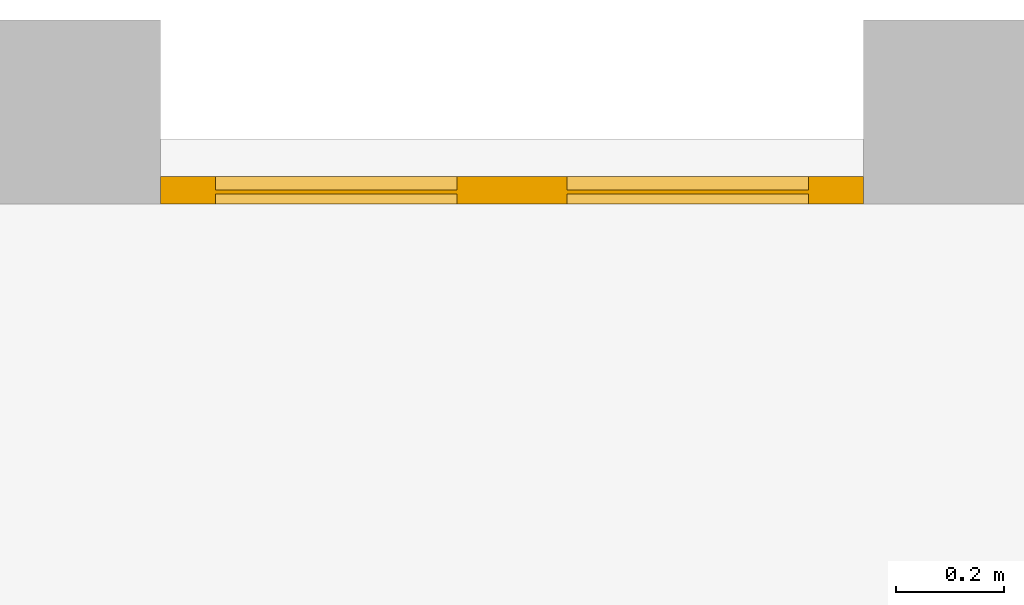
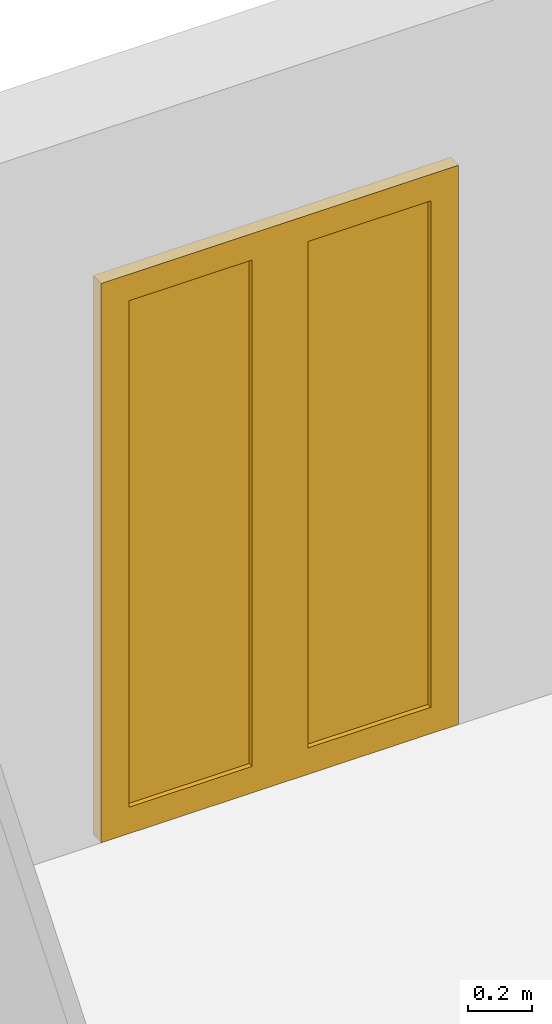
# One storey, part 13 of 13: 1 door.
"""IFC2X3 building model written with IfcOpenShell, lengths in millimetres."""

from ifc_helpers import new_model, entity, si_unit, converted_unit, direction, frame, origin, origin_with_axes, place, context, project, spatial, faceted_brep, element, save


model = new_model("IFC2X3")

# Units and contexts
model_context = context("Model", 3, precision=1e-05, world=origin(), true_north=direction((0.0, 1.0, 0.0)))
ifc_project = project(units=[si_unit("LENGTHUNIT", "METRE", prefix="MILLI"), si_unit("AREAUNIT", "SQUARE_METRE"), si_unit("VOLUMEUNIT", "CUBIC_METRE"), converted_unit("PLANEANGLEUNIT", "DEGREE", entity("IfcPlaneAngleMeasure", 0.01745), si_unit("PLANEANGLEUNIT", "RADIAN"), dimensions=[0, 0, 0, 0, 0, 0, 0]), si_unit("SOLIDANGLEUNIT", "STERADIAN"), si_unit("MASSUNIT", "GRAM"), si_unit("TIMEUNIT", "SECOND"), si_unit("THERMODYNAMICTEMPERATUREUNIT", "DEGREE_CELSIUS"), si_unit("LUMINOUSINTENSITYUNIT", "LUMEN")], contexts=[model_context])

# Site, building, storey
placement = place(None, origin_with_axes())
site_placement = place(placement, frame((11636.08881703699, 2815.7442167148, 4.768371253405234e-06), z_axis=(0.0, 0.0, 1.0), x_axis=(1.0, 0.0, 0.0)))
site = spatial("IfcSite", under=ifc_project, at=site_placement, Name="Surface", CompositionType="ELEMENT")
building_placement = place(placement, origin_with_axes())
building = spatial("IfcBuilding", under=site, at=building_placement, Name="Default Building", CompositionType="ELEMENT")
storey_placement = place(building_placement, origin_with_axes())
storey = spatial("IfcBuildingStorey", under=building, at=storey_placement, Name="Rez de chaussée", CompositionType="ELEMENT", Elevation=0.0)

# Door
door_placement = place(storey_placement, frame((11636.08881703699, 2815.7442167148, 4.768371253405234e-06), z_axis=(0.0, 0.0, 1.0), x_axis=(1.0, 0.0, 0.0)))
element("IfcDoor", 1, at=door_placement, inside=storey, Name="IfcDoor - Double-Glass 1_no trim:PF 1.30 x 2.15", context=model_context, shape_type="Brep", body=[
    faceted_brep([(15.51117994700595, 5344.255783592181, 2048.399996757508), (-187.6888175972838, 5344.255783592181, 101.6000032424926), (15.51117994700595, 5344.255783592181, 101.6000032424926), (-187.6888175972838, 5344.255783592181, 2048.399996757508), (563.9111573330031, 5344.255783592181, -4.768371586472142e-05), (-736.088794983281, 5344.255783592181, -4.768371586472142e-05), (462.3111660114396, 5344.255783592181, 101.6000032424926), (462.3111660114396, 5344.255783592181, 2048.399996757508), (563.9111573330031, 5344.255783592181, 2150.000047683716), (-634.4888036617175, 5344.255783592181, 101.6000032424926), (-634.4888036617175, 5344.255783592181, 2048.399996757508), (-736.088794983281, 5344.255783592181, 2150.000047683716), (-187.6888175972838, 5395.055782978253, 2048.399996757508), (15.51117994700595, 5395.055782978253, 101.6000032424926), (-187.6888175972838, 5395.055782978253, 101.6000032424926), (15.51117994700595, 5395.055782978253, 2048.399996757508), (-736.088794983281, 5395.055782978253, -4.768371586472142e-05), (-634.4888036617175, 5395.055782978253, 101.6000032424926), (563.9111573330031, 5395.055782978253, -4.768371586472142e-05), (-634.4888036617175, 5395.055782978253, 2048.399996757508), (-736.088794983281, 5395.055782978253, 2150.000047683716), (462.3111660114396, 5395.055782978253, 2048.399996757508), (462.3111660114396, 5395.055782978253, 101.6000032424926), (563.9111573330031, 5395.055782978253, 2150.000047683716), (15.51117994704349, 5369.655783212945, 2048.399996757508), (462.3111660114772, 5362.512033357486, 2048.399996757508), (462.3111660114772, 5369.655783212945, 2048.399996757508), (15.51117994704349, 5362.512033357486, 2048.399996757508), (462.3111660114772, 5369.655783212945, 101.6000032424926), (15.51117994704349, 5362.512033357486, 101.6000032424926), (15.51117994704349, 5369.655783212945, 101.6000032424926), (462.3111660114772, 5362.512033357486, 101.6000032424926), (-634.4888036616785, 5369.655783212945, 2048.399996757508), (-187.6888175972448, 5362.512033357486, 2048.399996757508), (-187.6888175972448, 5369.655783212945, 2048.399996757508), (-634.4888036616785, 5362.512033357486, 2048.399996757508), (-187.6888175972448, 5369.655783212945, 101.6000032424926), (-634.4888036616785, 5362.512033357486, 101.6000032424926), (-634.4888036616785, 5369.655783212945, 101.6000032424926), (-187.6888175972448, 5362.512033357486, 101.6000032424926)], [[[0, 1, 2]], [[0, 3, 1]], [[4, 2, 5]], [[4, 6, 2]], [[4, 7, 6]], [[7, 8, 3]], [[8, 7, 4]], [[9, 5, 2]], [[10, 5, 9]], [[8, 10, 3]], [[10, 11, 5]], [[11, 10, 8]], [[12, 13, 14]], [[13, 12, 15]], [[16, 17, 18]], [[16, 19, 17]], [[19, 20, 21]], [[20, 19, 16]], [[14, 18, 17]], [[13, 18, 14]], [[22, 18, 13]], [[21, 18, 22]], [[21, 23, 18]], [[23, 21, 20]], [[3, 19, 12]], [[3, 10, 19]], [[1, 12, 14]], [[1, 3, 12]], [[9, 14, 17]], [[9, 1, 14]], [[10, 17, 19]], [[10, 9, 17]], [[7, 15, 21]], [[7, 0, 15]], [[6, 21, 22]], [[6, 7, 21]], [[2, 22, 13]], [[2, 6, 22]], [[0, 13, 15]], [[0, 2, 13]], [[5, 20, 16]], [[5, 11, 20]], [[4, 16, 18]], [[4, 5, 16]], [[8, 18, 23]], [[8, 4, 18]], [[11, 23, 20]], [[11, 8, 23]], [[24, 25, 26]], [[24, 27, 25]], [[28, 29, 30]], [[28, 31, 29]], [[27, 30, 29]], [[27, 24, 30]], [[25, 29, 31]], [[25, 27, 29]], [[26, 31, 28]], [[26, 25, 31]], [[24, 28, 30]], [[24, 26, 28]], [[32, 33, 34]], [[32, 35, 33]], [[36, 37, 38]], [[36, 39, 37]], [[35, 38, 37]], [[35, 32, 38]], [[33, 37, 39]], [[33, 35, 37]], [[34, 39, 36]], [[34, 33, 39]], [[32, 36, 38]], [[32, 34, 36]]]),
])

save(model, "model.ifc")
